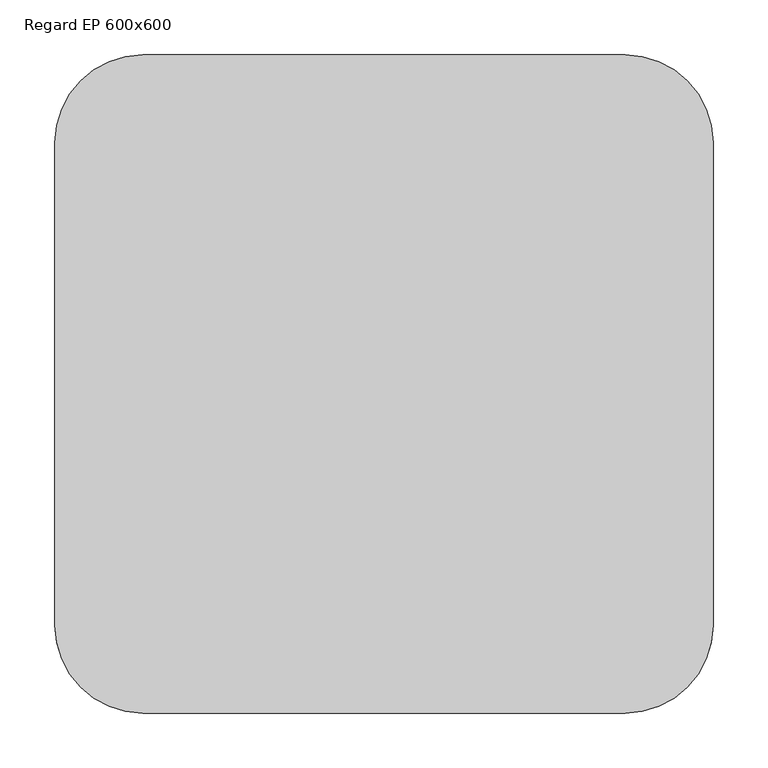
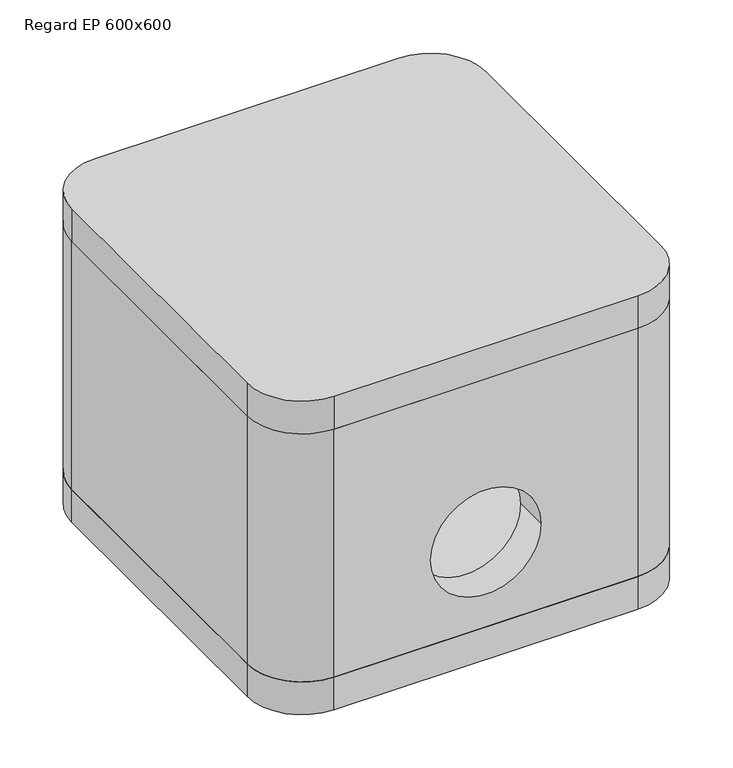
"""IFC4 building model written with IfcOpenShell, lengths in millimetres: valve geometry, Regard Eau pluviale 2 : Regard EP 600x600."""

from ifc_helpers import new_model, si_unit, point, frame, frame_2d, origin, place, context, project, spatial, polyline, circle_curve, trimmed, segment, composite_curve, outline, extrude, source, transform, mapped, element, save
from ifc_brep_helpers import plane_surface, cylinder_surface, revolved_surface, advanced_brep


def regard_ep_600x600_5cba4647(model_context):
    return source(origin(), model_context, "Body", "SolidModel", [
        extrude(outline(composite_curve([segment(trimmed(circle_curve(frame_2d((220.0, 220.0)), 80.0), [point((220.0, 300.0))], [point((300.0, 220.0))], False, "CARTESIAN"), True, "CONTINUOUS"), segment(polyline([(300.0, 220.0), (300.0, -220.0)]), True, "CONTINUOUS"), segment(trimmed(circle_curve(frame_2d((220.0, -220.0)), 80.0), [point((300.0, -220.0))], [point((220.0, -300.0))], False, "CARTESIAN"), True, "CONTINUOUS"), segment(polyline([(220.0, -300.0), (-220.0, -300.0)]), True, "CONTINUOUS"), segment(trimmed(circle_curve(frame_2d((-220.0, -220.0)), 80.0), [point((-220.0, -300.0))], [point((-300.0, -220.0))], False, "CARTESIAN"), True, "CONTINUOUS"), segment(polyline([(-300.0, -220.0), (-300.0, 220.0)]), True, "CONTINUOUS"), segment(trimmed(circle_curve(frame_2d((-220.0, 220.0)), 80.0), [point((-300.0, 220.0))], [point((-220.0, 300.0))], False, "CARTESIAN"), True, "CONTINUOUS"), segment(polyline([(-220.0, 300.0), (220.0, 300.0)]), True, "CONTINUOUS")], self_intersect=False)), frame((0.0, 0.0, 869930.0), z_axis=(0.0, 0.0, 1.0), x_axis=(1.0, 0.0, 0.0)), (0.0, 0.0, 1.0), 50.0),
        extrude(outline(composite_curve([segment(trimmed(circle_curve(frame_2d((220.0, 220.0)), 80.0), [point((220.0, 300.0))], [point((300.0, 220.0))], False, "CARTESIAN"), True, "CONTINUOUS"), segment(polyline([(300.0, 220.0), (300.0, -220.0)]), True, "CONTINUOUS"), segment(trimmed(circle_curve(frame_2d((220.0, -220.0)), 80.0), [point((300.0, -220.0))], [point((220.0, -300.0))], False, "CARTESIAN"), True, "CONTINUOUS"), segment(polyline([(220.0, -300.0), (-220.0, -300.0)]), True, "CONTINUOUS"), segment(trimmed(circle_curve(frame_2d((-220.0, -220.0)), 80.0), [point((-220.0, -300.0))], [point((-300.0, -220.0))], False, "CARTESIAN"), True, "CONTINUOUS"), segment(polyline([(-300.0, -220.0), (-300.0, 220.0)]), True, "CONTINUOUS"), segment(trimmed(circle_curve(frame_2d((-220.0, 220.0)), 80.0), [point((-300.0, 220.0))], [point((-220.0, 300.0))], False, "CARTESIAN"), True, "CONTINUOUS"), segment(polyline([(-220.0, 300.0), (220.0, 300.0)]), True, "CONTINUOUS")], self_intersect=False)), frame((0.0, 0.0, 869500.0), z_axis=(0.0, 0.0, 1.0), x_axis=(1.0, 0.0, 0.0)), (0.0, 0.0, 1.0), 50.0),
        advanced_brep(
        [(300.0, -220.0, 869930.0), (300.0, 220.0, 869930.0), (220.0, 300.0, 869930.0), (-220.0, 300.0, 869930.0), (-300.0, 220.0, 869930.0), (-300.0, -220.0, 869930.0), (-220.0, -300.0, 869930.0), (220.0, -300.0, 869930.0), (-220.0, 250.0, 869930.0), (220.0, 250.0, 869930.0), (250.0, 220.0, 869930.0), (250.0, -220.0, 869930.0), (220.0, -250.0, 869930.0), (-220.0, -250.0, 869930.0), (-250.0, -220.0, 869930.0), (-250.0, 220.0, 869930.0), (300.0, -220.0, 869550.0), (220.0, -300.0, 869550.0), (-220.0, -300.0, 869550.0), (-300.0, -220.0, 869550.0), (-300.0, 220.0, 869550.0), (-220.0, 300.0, 869550.0), (220.0, 300.0, 869550.0), (300.0, 220.0, 869550.0), (-220.0, 250.0, 869550.0), (-250.0, 220.0, 869550.0), (-250.0, -220.0, 869550.0), (-220.0, -250.0, 869550.0), (220.0, -250.0, 869550.0), (250.0, -220.0, 869550.0), (250.0, 220.0, 869550.0), (220.0, 250.0, 869550.0), (-80.0, 300.0, 869680.0), (80.0, 300.0, 869680.0), (80.0, -300.0, 869680.0), (-80.0, -300.0, 869680.0), (80.0, -250.0, 869680.0), (-80.0, -250.0, 869680.0), (80.0, 250.0, 869680.0), (-80.0, 250.0, 869680.0)],
        [
            (0, 1),
            (1, 2, circle_curve(frame((220.0, 220.0, 869930.0), z_axis=(0.0, 0.0, 1.0), x_axis=(1.0, 0.0, 0.0)), 80.0)),
            (2, 3),
            (3, 4, circle_curve(frame((-220.0, 220.0, 869930.0), z_axis=(0.0, 0.0, 1.0), x_axis=(1.0, 0.0, 0.0)), 80.0)),
            (4, 5),
            (5, 6, circle_curve(frame((-220.0, -220.0, 869930.0), z_axis=(0.0, 0.0, 1.0), x_axis=(1.0, 0.0, 0.0)), 80.0)),
            (6, 7),
            (7, 0, circle_curve(frame((220.0, -220.0, 869930.0), z_axis=(0.0, 0.0, 1.0), x_axis=(1.0, 0.0, 0.0)), 80.0)),
            (8, 9),
            (9, 10, circle_curve(frame((220.0, 220.0, 869930.0), z_axis=(0.0, 0.0, -1.0), x_axis=(1.0, 0.0, 0.0)), 30.0)),
            (10, 11),
            (11, 12, circle_curve(frame((220.0, -220.0, 869930.0), z_axis=(0.0, 0.0, -1.0), x_axis=(1.0, 0.0, 0.0)), 30.0)),
            (12, 13),
            (13, 14, circle_curve(frame((-220.0, -220.0, 869930.0), z_axis=(0.0, 0.0, -1.0), x_axis=(1.0, 0.0, 0.0)), 30.0)),
            (14, 15),
            (15, 8, circle_curve(frame((-220.0, 220.0, 869930.0), z_axis=(0.0, 0.0, -1.0), x_axis=(1.0, 0.0, 0.0)), 30.0)),
            (16, 17, circle_curve(frame((220.0, -220.0, 869550.0), z_axis=(0.0, 0.0, -1.0), x_axis=(1.0, 0.0, 0.0)), 80.0)),
            (17, 18),
            (18, 19, circle_curve(frame((-220.0, -220.0, 869550.0), z_axis=(0.0, 0.0, -1.0), x_axis=(1.0, 0.0, 0.0)), 80.0)),
            (19, 20),
            (20, 21, circle_curve(frame((-220.0, 220.0, 869550.0), z_axis=(0.0, 0.0, -1.0), x_axis=(1.0, 0.0, 0.0)), 80.0)),
            (21, 22),
            (22, 23, circle_curve(frame((220.0, 220.0, 869550.0), z_axis=(0.0, 0.0, -1.0), x_axis=(1.0, 0.0, 0.0)), 80.0)),
            (23, 16),
            (24, 25, circle_curve(frame((-220.0, 220.0, 869550.0), z_axis=(0.0, 0.0, 1.0), x_axis=(1.0, 0.0, 0.0)), 30.0)),
            (25, 26),
            (26, 27, circle_curve(frame((-220.0, -220.0, 869550.0), z_axis=(0.0, 0.0, 1.0), x_axis=(1.0, 0.0, 0.0)), 30.0)),
            (27, 28),
            (28, 29, circle_curve(frame((220.0, -220.0, 869550.0), z_axis=(0.0, 0.0, 1.0), x_axis=(1.0, 0.0, 0.0)), 30.0)),
            (29, 30),
            (30, 31, circle_curve(frame((220.0, 220.0, 869550.0), z_axis=(0.0, 0.0, 1.0), x_axis=(1.0, 0.0, 0.0)), 30.0)),
            (31, 24),
            (0, 16),
            (23, 1),
            (2, 22),
            (21, 3),
            (32, 33, circle_curve(frame((0.0, 300.0, 869680.0), z_axis=(0.0, -1.0, 0.0), x_axis=(1.0, 0.0, 0.0)), 80.0)),
            (33, 32, circle_curve(frame((0.0, 300.0, 869680.0), z_axis=(0.0, -1.0, 0.0), x_axis=(1.0, 0.0, 0.0)), 80.0)),
            (4, 20),
            (19, 5),
            (6, 18),
            (17, 7),
            (34, 35, circle_curve(frame((0.0, -300.0, 869680.0), z_axis=(0.0, 1.0, 0.0), x_axis=(1.0, 0.0, 0.0)), 80.0)),
            (35, 34, circle_curve(frame((0.0, -300.0, 869680.0), z_axis=(0.0, 1.0, 0.0), x_axis=(1.0, 0.0, 0.0)), 80.0)),
            (34, 36),
            (36, 37, circle_curve(frame((0.0, -250.0, 869680.0), z_axis=(0.0, 1.0, 0.0), x_axis=(1.0, 0.0, 0.0)), 80.0)),
            (37, 35),
            (37, 36, circle_curve(frame((0.0, -250.0, 869680.0), z_axis=(0.0, 1.0, 0.0), x_axis=(1.0, 0.0, 0.0)), 80.0)),
            (38, 33),
            (32, 39),
            (39, 38, circle_curve(frame((0.0, 250.0, 869680.0), z_axis=(0.0, -1.0, 0.0), x_axis=(1.0, 0.0, 0.0)), 80.0)),
            (38, 39, circle_curve(frame((0.0, 250.0, 869680.0), z_axis=(0.0, -1.0, 0.0), x_axis=(1.0, 0.0, 0.0)), 80.0)),
            (8, 24),
            (31, 9),
            (30, 10),
            (29, 11),
            (28, 12),
            (27, 13),
            (26, 14),
            (25, 15),
        ],
        [
            plane_surface(frame((300.0, 220.0, 869930.0), z_axis=(0.0, 0.0, 1.0), x_axis=(0.0, 1.0, 0.0))),
            plane_surface(frame((300.0, 220.0, 869550.0), z_axis=(0.0, 0.0, -1.0), x_axis=(0.0, -1.0, 0.0))),
            plane_surface(frame((300.0, -220.0, 869930.0), z_axis=(1.0, 0.0, 0.0), x_axis=(0.0, 0.0, -1.0))),
            plane_surface(frame((220.0, 300.0, 869930.0), z_axis=(0.0, 1.0, 0.0), x_axis=(0.0, 0.0, -1.0))),
            plane_surface(frame((-300.0, 220.0, 869930.0), z_axis=(-1.0, 0.0, 0.0), x_axis=(0.0, 0.0, -1.0))),
            plane_surface(frame((-220.0, -300.0, 869930.0), z_axis=(0.0, -1.0, 0.0), x_axis=(0.0, 0.0, -1.0))),
            revolved_surface(polyline([(80.0, -300.0, 869680.0), (80.0, -250.0, 869680.0)]), (0.0, -250.0, 869680.0), (0.0, -1.0, 0.0)),
            revolved_surface(polyline([(80.0, 250.0, 869680.0), (80.0, 300.0, 869680.0)]), (0.0, 300.0, 869680.0), (0.0, -1.0, 0.0)),
            cylinder_surface(frame((220.0, 220.0, 869550.0), z_axis=(0.0, 0.0, 1.0), x_axis=(1.0, 0.0, 0.0)), 80.0),
            cylinder_surface(frame((-220.0, 220.0, 869550.0), z_axis=(0.0, 0.0, 1.0), x_axis=(1.0, 0.0, 0.0)), 80.0),
            cylinder_surface(frame((-220.0, -220.0, 869550.0), z_axis=(0.0, 0.0, 1.0), x_axis=(1.0, 0.0, 0.0)), 80.0),
            cylinder_surface(frame((220.0, -220.0, 869550.0), z_axis=(0.0, 0.0, 1.0), x_axis=(1.0, 0.0, 0.0)), 80.0),
            plane_surface(frame((-220.0, 250.0, 869930.0), z_axis=(0.0, -1.0, 0.0), x_axis=(0.0, 0.0, -1.0))),
            revolved_surface(polyline([(250.0, 220.0, 869550.0), (250.0, 220.0, 869930.0)]), (220.0, 220.0, 0.0), (0.0, 0.0, -1.0)),
            plane_surface(frame((250.0, 220.0, 869930.0), z_axis=(-1.0, 0.0, 0.0), x_axis=(0.0, 0.0, -1.0))),
            revolved_surface(polyline([(250.0, -220.0, 869550.0), (250.0, -220.0, 869930.0)]), (220.0, -220.0, 0.0), (0.0, 0.0, -1.0)),
            plane_surface(frame((220.0, -250.0, 869930.0), z_axis=(0.0, 1.0, 0.0), x_axis=(0.0, 0.0, -1.0))),
            revolved_surface(polyline([(-190.0, -220.0, 869550.0), (-190.0, -220.0, 869930.0)]), (-220.0, -220.0, 0.0), (0.0, 0.0, -1.0)),
            plane_surface(frame((-250.0, -220.0, 869930.0), z_axis=(1.0, 0.0, 0.0), x_axis=(0.0, 0.0, -1.0))),
            revolved_surface(polyline([(-190.0, 220.0, 869550.0), (-190.0, 220.0, 869930.0)]), (-220.0, 220.0, 0.0), (0.0, 0.0, -1.0)),
        ],
        [
            (0, [[1, 2, 3, 4, 5, 6, 7, 8], [9, 10, 11, 12, 13, 14, 15, 16]]),
            (1, [[17, 18, 19, 20, 21, 22, 23, 24], [25, 26, 27, 28, 29, 30, 31, 32]]),
            (2, [[-1, 33, -24, 34]]),
            (3, [[-3, 35, -22, 36], [37, 38]]),
            (4, [[-5, 39, -20, 40]]),
            (5, [[-7, 41, -18, 42], [43, 44]]),
            (6, [[45, 46, 47, -43]]),
            (6, [[-45, -44, -47, 48]]),
            (7, [[49, -37, 50, 51]]),
            (7, [[-49, 52, -50, -38]]),
            (8, [[-2, -34, -23, -35]]),
            (9, [[-4, -36, -21, -39]]),
            (10, [[-6, -40, -19, -41]]),
            (11, [[-8, -42, -17, -33]]),
            (12, [[-9, 53, -32, 54], [-51, -52]]),
            (13, [[-10, -54, -31, 55]]),
            (14, [[-11, -55, -30, 56]]),
            (15, [[-12, -56, -29, 57]]),
            (16, [[-13, -57, -28, 58], [-46, -48]]),
            (17, [[-14, -58, -27, 59]]),
            (18, [[-15, -59, -26, 60]]),
            (19, [[-16, -60, -25, -53]]),
        ],
    ),
    ])


if __name__ == "__main__":
    model = new_model("IFC4")
    model_context = context("Model", 3, world=origin())
    ifc_project = project(units=[si_unit("LENGTHUNIT", "METRE", prefix="MILLI")], contexts=[model_context])
    site = spatial("IfcSite", under=ifc_project)
    building = spatial("IfcBuilding", under=site)
    placement = place(None, origin())
    regard_ep_600x600_shape = regard_ep_600x600_5cba4647(model_context)
    element("IfcValve", 1, ObjectType="Regard Eau pluviale 2 : Regard EP 600x600", at=placement, inside=building, context=model_context, shape_type="MappedRepresentation", body=[
        mapped(regard_ep_600x600_shape, transform((0.0, 0.0, 0.0), x_axis=(1.0, 0.0, 0.0), y_axis=(0.0, 1.0, 0.0), z_axis=(0.0, 0.0, 1.0))),
    ])
    save(model, "model.ifc")
